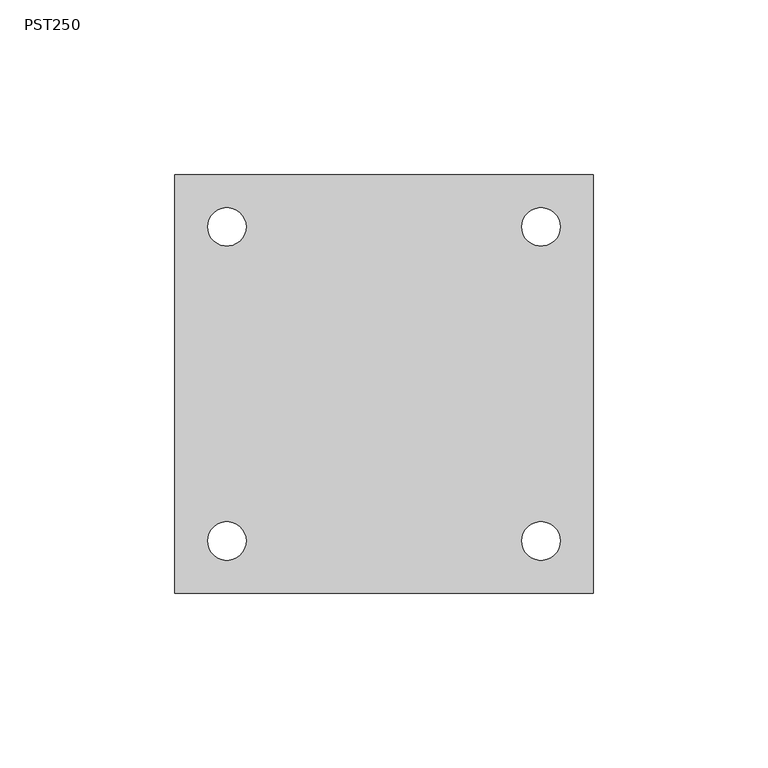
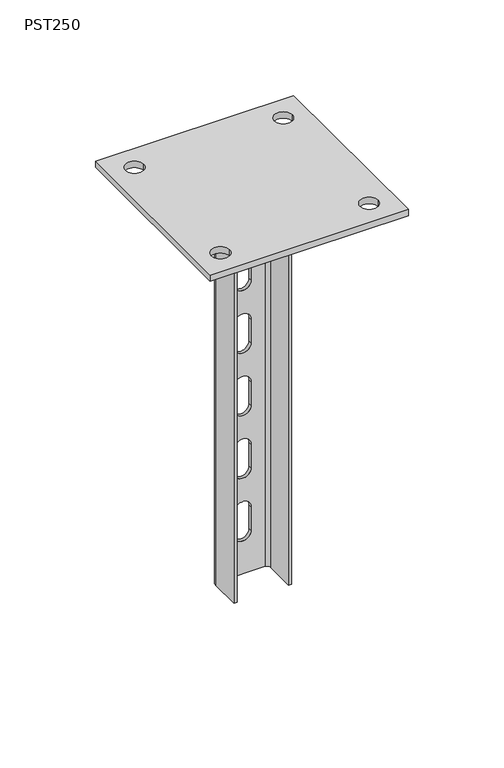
"""IFC4 building model written with IfcOpenShell, lengths in millimetres: proxy geometry, КМ Профиль_Стойка потолочная облегчённая PST : PST250."""

from ifc_helpers import new_model, si_unit, point, frame, frame_2d, origin, place, context, project, spatial, polyline, circle_curve, trimmed, segment, composite_curve, outline, extrude, source, transform, mapped, element, save
from ifc_brep_helpers import plane_surface, cylinder_surface, revolved_surface, advanced_brep


def pst250_26485013(model_context):
    return source(origin(), model_context, "Body", "SolidModel", [
        advanced_brep(
        [(17.5, -11.5, -4.0), (17.5, 7.5, -4.0), (13.5, 11.5, -4.0), (-13.5, 11.5, -4.0), (-17.5, 7.5, -4.0), (-17.5, -11.5, -4.0), (-15.5, -11.5, -4.0), (-15.5, 7.5, -4.0), (-13.5, 9.5, -4.0), (13.5, 9.5, -4.0), (15.5, 7.5, -4.0), (15.5, -11.5, -4.0), (17.5, 7.5, -254.0), (17.5, -11.5, -254.0), (15.5, -11.5, -254.0), (15.5, 7.5, -254.0), (13.5, 9.5, -254.0), (-13.5, 9.5, -254.0), (-15.5, 7.5, -254.0), (-15.5, -11.5, -254.0), (-17.5, -11.5, -254.0), (-17.5, 7.5, -254.0), (-13.5, 11.5, -254.0), (13.5, 11.5, -254.0), (-5.0, 11.5, -53.0), (-5.0, 11.5, -68.0), (5.0, 11.5, -68.0), (5.0, 11.5, -53.0), (-5.0, 11.5, -93.0), (-5.0, 11.5, -108.0), (5.0, 11.5, -108.0), (5.0, 11.5, -93.0), (-5.0, 11.5, -133.0), (-5.0, 11.5, -148.0), (5.0, 11.5, -148.0), (5.0, 11.5, -133.0), (-5.0, 11.5, -173.0), (-5.0, 11.5, -188.0), (5.0, 11.5, -188.0), (5.0, 11.5, -173.0), (-5.0, 11.5, -213.0), (-5.0, 11.5, -228.0), (5.0, 11.5, -228.0), (5.0, 11.5, -213.0), (-5.0, 11.5, -13.0), (-5.0, 11.5, -28.0), (5.0, 11.5, -28.0), (5.0, 11.5, -13.0), (-5.0, 9.5, -68.0), (-5.0, 9.5, -53.0), (5.0, 9.5, -53.0), (5.0, 9.5, -68.0), (-5.0, 9.5, -108.0), (-5.0, 9.5, -93.0), (5.0, 9.5, -93.0), (5.0, 9.5, -108.0), (-5.0, 9.5, -148.0), (-5.0, 9.5, -133.0), (5.0, 9.5, -133.0), (5.0, 9.5, -148.0), (-5.0, 9.5, -188.0), (-5.0, 9.5, -173.0), (5.0, 9.5, -173.0), (5.0, 9.5, -188.0), (-5.0, 9.5, -228.0), (-5.0, 9.5, -213.0), (5.0, 9.5, -213.0), (5.0, 9.5, -228.0), (-5.0, 9.5, -28.0), (-5.0, 9.5, -13.0), (5.0, 9.5, -13.0), (5.0, 9.5, -28.0)],
        [
            (0, 1),
            (1, 2, circle_curve(frame((13.5, 7.5, -4.0), z_axis=(0.0, 0.0, 1.0), x_axis=(1.0, 0.0, 0.0)), 4.0)),
            (2, 3),
            (3, 4, circle_curve(frame((-13.5, 7.5, -4.0), z_axis=(0.0, 0.0, 1.0), x_axis=(1.0, 0.0, 0.0)), 4.0)),
            (4, 5),
            (5, 6),
            (6, 7),
            (7, 8, circle_curve(frame((-13.5, 7.5, -4.0), z_axis=(0.0, 0.0, -1.0), x_axis=(1.0, 0.0, 0.0)), 2.0)),
            (8, 9),
            (9, 10, circle_curve(frame((13.5, 7.5, -4.0), z_axis=(0.0, 0.0, -1.0), x_axis=(1.0, 0.0, 0.0)), 2.0)),
            (10, 11),
            (11, 0),
            (12, 13),
            (13, 14),
            (14, 15),
            (15, 16, circle_curve(frame((13.5, 7.5, -254.0), z_axis=(0.0, 0.0, 1.0), x_axis=(1.0, 0.0, 0.0)), 2.0)),
            (16, 17),
            (17, 18, circle_curve(frame((-13.5, 7.5, -254.0), z_axis=(0.0, 0.0, 1.0), x_axis=(1.0, 0.0, 0.0)), 2.0)),
            (18, 19),
            (19, 20),
            (20, 21),
            (21, 22, circle_curve(frame((-13.5, 7.5, -254.0), z_axis=(0.0, 0.0, -1.0), x_axis=(1.0, 0.0, 0.0)), 4.0)),
            (22, 23),
            (23, 12, circle_curve(frame((13.5, 7.5, -254.0), z_axis=(0.0, 0.0, -1.0), x_axis=(1.0, 0.0, 0.0)), 4.0)),
            (0, 13),
            (12, 1),
            (23, 2),
            (22, 3),
            (24, 25),
            (25, 26, circle_curve(frame((0.0, 11.5, -68.0), z_axis=(0.0, -1.0, 0.0), x_axis=(0.0, 0.0, -1.0)), 5.0)),
            (26, 27),
            (27, 24, circle_curve(frame((0.0, 11.5, -53.0), z_axis=(0.0, -1.0, 0.0), x_axis=(0.0, 0.0, -1.0)), 5.0)),
            (28, 29),
            (29, 30, circle_curve(frame((0.0, 11.5, -108.0), z_axis=(0.0, -1.0, 0.0), x_axis=(0.0, 0.0, -1.0)), 5.0)),
            (30, 31),
            (31, 28, circle_curve(frame((0.0, 11.5, -93.0), z_axis=(0.0, -1.0, 0.0), x_axis=(0.0, 0.0, -1.0)), 5.0)),
            (32, 33),
            (33, 34, circle_curve(frame((0.0, 11.5, -148.0), z_axis=(0.0, -1.0, 0.0), x_axis=(0.0, 0.0, -1.0)), 5.0)),
            (34, 35),
            (35, 32, circle_curve(frame((0.0, 11.5, -133.0), z_axis=(0.0, -1.0, 0.0), x_axis=(0.0, 0.0, -1.0)), 5.0)),
            (36, 37),
            (37, 38, circle_curve(frame((0.0, 11.5, -188.0), z_axis=(0.0, -1.0, 0.0), x_axis=(0.0, 0.0, -1.0)), 5.0)),
            (38, 39),
            (39, 36, circle_curve(frame((0.0, 11.5, -173.0), z_axis=(0.0, -1.0, 0.0), x_axis=(0.0, 0.0, -1.0)), 5.0)),
            (40, 41),
            (41, 42, circle_curve(frame((0.0, 11.5, -228.0), z_axis=(0.0, -1.0, 0.0), x_axis=(0.0, 0.0, -1.0)), 5.0)),
            (42, 43),
            (43, 40, circle_curve(frame((0.0, 11.5, -213.0), z_axis=(0.0, -1.0, 0.0), x_axis=(0.0, 0.0, -1.0)), 5.0)),
            (44, 45),
            (45, 46, circle_curve(frame((0.0, 11.5, -28.0), z_axis=(0.0, -1.0, 0.0), x_axis=(0.0, 0.0, -1.0)), 5.0)),
            (46, 47),
            (47, 44, circle_curve(frame((0.0, 11.5, -13.0), z_axis=(0.0, -1.0, 0.0), x_axis=(0.0, 0.0, -1.0)), 5.0)),
            (21, 4),
            (20, 5),
            (19, 6),
            (18, 7),
            (17, 8),
            (16, 9),
            (48, 49),
            (49, 50, circle_curve(frame((0.0, 9.5, -53.0), z_axis=(0.0, 1.0, 0.0), x_axis=(0.0, 0.0, -1.0)), 5.0)),
            (50, 51),
            (51, 48, circle_curve(frame((0.0, 9.5, -68.0), z_axis=(0.0, 1.0, 0.0), x_axis=(0.0, 0.0, -1.0)), 5.0)),
            (52, 53),
            (53, 54, circle_curve(frame((0.0, 9.5, -93.0), z_axis=(0.0, 1.0, 0.0), x_axis=(0.0, 0.0, -1.0)), 5.0)),
            (54, 55),
            (55, 52, circle_curve(frame((0.0, 9.5, -108.0), z_axis=(0.0, 1.0, 0.0), x_axis=(0.0, 0.0, -1.0)), 5.0)),
            (56, 57),
            (57, 58, circle_curve(frame((0.0, 9.5, -133.0), z_axis=(0.0, 1.0, 0.0), x_axis=(0.0, 0.0, -1.0)), 5.0)),
            (58, 59),
            (59, 56, circle_curve(frame((0.0, 9.5, -148.0), z_axis=(0.0, 1.0, 0.0), x_axis=(0.0, 0.0, -1.0)), 5.0)),
            (60, 61),
            (61, 62, circle_curve(frame((0.0, 9.5, -173.0), z_axis=(0.0, 1.0, 0.0), x_axis=(0.0, 0.0, -1.0)), 5.0)),
            (62, 63),
            (63, 60, circle_curve(frame((0.0, 9.5, -188.0), z_axis=(0.0, 1.0, 0.0), x_axis=(0.0, 0.0, -1.0)), 5.0)),
            (64, 65),
            (65, 66, circle_curve(frame((0.0, 9.5, -213.0), z_axis=(0.0, 1.0, 0.0), x_axis=(0.0, 0.0, -1.0)), 5.0)),
            (66, 67),
            (67, 64, circle_curve(frame((0.0, 9.5, -228.0), z_axis=(0.0, 1.0, 0.0), x_axis=(0.0, 0.0, -1.0)), 5.0)),
            (68, 69),
            (69, 70, circle_curve(frame((0.0, 9.5, -13.0), z_axis=(0.0, 1.0, 0.0), x_axis=(0.0, 0.0, -1.0)), 5.0)),
            (70, 71),
            (71, 68, circle_curve(frame((0.0, 9.5, -28.0), z_axis=(0.0, 1.0, 0.0), x_axis=(0.0, 0.0, -1.0)), 5.0)),
            (15, 10),
            (14, 11),
            (24, 49),
            (48, 25),
            (27, 50),
            (26, 51),
            (28, 53),
            (52, 29),
            (31, 54),
            (30, 55),
            (32, 57),
            (56, 33),
            (35, 58),
            (34, 59),
            (36, 61),
            (60, 37),
            (39, 62),
            (38, 63),
            (40, 65),
            (64, 41),
            (43, 66),
            (42, 67),
            (44, 69),
            (68, 45),
            (47, 70),
            (46, 71),
        ],
        [
            plane_surface(frame((17.5, 70.8587358, -4.0), z_axis=(0.0, 0.0, 1.0), x_axis=(0.0, 1.0, 0.0))),
            plane_surface(frame((17.5, 70.8587358, -254.0), z_axis=(0.0, 0.0, -1.0), x_axis=(0.0, -1.0, 0.0))),
            plane_surface(frame((17.5, -11.5, -4.0), z_axis=(1.0, 0.0, 0.0), x_axis=(0.0, 0.0, -1.0))),
            cylinder_surface(frame((13.5, 7.5, -254.0), z_axis=(0.0, 0.0, 1.0), x_axis=(1.0, 0.0, 0.0)), 4.0),
            plane_surface(frame((13.5, 11.5, -4.0), z_axis=(0.0, 1.0, 0.0), x_axis=(0.0, 0.0, -1.0))),
            cylinder_surface(frame((-13.5, 7.5, -254.0), z_axis=(0.0, 0.0, 1.0), x_axis=(1.0, 0.0, 0.0)), 4.0),
            plane_surface(frame((-17.5, 7.5, -4.0), z_axis=(-1.0, 0.0, 0.0), x_axis=(0.0, 0.0, -1.0))),
            plane_surface(frame((-17.5, -11.5, -4.0), z_axis=(0.0, -1.0, 0.0), x_axis=(0.0, 0.0, -1.0))),
            plane_surface(frame((-15.5, -11.5, -4.0), z_axis=(1.0, 0.0, 0.0), x_axis=(0.0, 0.0, -1.0))),
            revolved_surface(polyline([(-11.5, 7.5, -254.0), (-11.5, 7.5, -4.0)]), (-13.5, 7.5, -254.0), (0.0, 0.0, -1.0)),
            plane_surface(frame((-13.5, 9.5, -4.0), z_axis=(0.0, -1.0, 0.0), x_axis=(0.0, 0.0, -1.0))),
            revolved_surface(polyline([(15.5, 7.5, -254.0), (15.5, 7.5, -4.0)]), (13.5, 7.5, -254.0), (0.0, 0.0, -1.0)),
            plane_surface(frame((15.5, 7.5, -4.0), z_axis=(-1.0, 0.0, 0.0), x_axis=(0.0, 0.0, -1.0))),
            plane_surface(frame((15.5, -11.5, -4.0), z_axis=(0.0, -1.0, 0.0), x_axis=(0.0, 0.0, -1.0))),
            plane_surface(frame((-5.0, 11.5, -68.0), z_axis=(1.0, 0.0, 0.0), x_axis=(0.0, -1.0, 0.0))),
            revolved_surface(polyline([(0.0, 11.5, -58.0), (0.0, 9.5, -58.0)]), (0.0, 9.5, -53.0), (0.0, 1.0, 0.0)),
            plane_surface(frame((5.0, 11.5, -53.0), z_axis=(-1.0, 0.0, 0.0), x_axis=(0.0, -1.0, 0.0))),
            revolved_surface(polyline([(0.0, 11.5, -73.0), (0.0, 9.5, -73.0)]), (0.0, 9.5, -68.0), (0.0, 1.0, 0.0)),
            plane_surface(frame((-5.0, 11.5, -108.0), z_axis=(1.0, 0.0, 0.0), x_axis=(0.0, -1.0, 0.0))),
            revolved_surface(polyline([(0.0, 11.5, -98.0), (0.0, 9.5, -98.0)]), (0.0, 9.5, -93.0), (0.0, 1.0, 0.0)),
            plane_surface(frame((5.0, 11.5, -93.0), z_axis=(-1.0, 0.0, 0.0), x_axis=(0.0, -1.0, 0.0))),
            revolved_surface(polyline([(0.0, 11.5, -113.0), (0.0, 9.5, -113.0)]), (0.0, 9.5, -108.0), (0.0, 1.0, 0.0)),
            plane_surface(frame((-5.0, 11.5, -148.0), z_axis=(1.0, 0.0, 0.0), x_axis=(0.0, -1.0, 0.0))),
            revolved_surface(polyline([(0.0, 11.5, -138.0), (0.0, 9.5, -138.0)]), (0.0, 9.5, -133.0), (0.0, 1.0, 0.0)),
            plane_surface(frame((5.0, 11.5, -133.0), z_axis=(-1.0, 0.0, 0.0), x_axis=(0.0, -1.0, 0.0))),
            revolved_surface(polyline([(0.0, 11.5, -153.0), (0.0, 9.5, -153.0)]), (0.0, 9.5, -148.0), (0.0, 1.0, 0.0)),
            plane_surface(frame((-5.0, 11.5, -188.0), z_axis=(1.0, 0.0, 0.0), x_axis=(0.0, -1.0, 0.0))),
            revolved_surface(polyline([(0.0, 11.5, -178.0), (0.0, 9.5, -178.0)]), (0.0, 9.5, -173.0), (0.0, 1.0, 0.0)),
            plane_surface(frame((5.0, 11.5, -173.0), z_axis=(-1.0, 0.0, 0.0), x_axis=(0.0, -1.0, 0.0))),
            revolved_surface(polyline([(0.0, 11.5, -193.0), (0.0, 9.5, -193.0)]), (0.0, 9.5, -188.0), (0.0, 1.0, 0.0)),
            plane_surface(frame((-5.0, 11.5, -228.0), z_axis=(1.0, 0.0, 0.0), x_axis=(0.0, -1.0, 0.0))),
            revolved_surface(polyline([(0.0, 11.5, -218.0), (0.0, 9.5, -218.0)]), (0.0, 9.5, -213.0), (0.0, 1.0, 0.0)),
            plane_surface(frame((5.0, 11.5, -213.0), z_axis=(-1.0, 0.0, 0.0), x_axis=(0.0, -1.0, 0.0))),
            revolved_surface(polyline([(0.0, 11.5, -233.0), (0.0, 9.5, -233.0)]), (0.0, 9.5, -228.0), (0.0, 1.0, 0.0)),
            plane_surface(frame((-5.0, 11.5, -28.0), z_axis=(1.0, 0.0, 0.0), x_axis=(0.0, -1.0, 0.0))),
            revolved_surface(polyline([(0.0, 11.5, -18.0), (0.0, 9.5, -18.0)]), (0.0, 9.5, -13.0), (0.0, 1.0, 0.0)),
            plane_surface(frame((5.0, 11.5, -13.0), z_axis=(-1.0, 0.0, 0.0), x_axis=(0.0, -1.0, 0.0))),
            revolved_surface(polyline([(0.0, 11.5, -33.0), (0.0, 9.5, -33.0)]), (0.0, 9.5, -28.0), (0.0, 1.0, 0.0)),
        ],
        [
            (0, [[1, 2, 3, 4, 5, 6, 7, 8, 9, 10, 11, 12]]),
            (1, [[13, 14, 15, 16, 17, 18, 19, 20, 21, 22, 23, 24]]),
            (2, [[-1, 25, -13, 26]]),
            (3, [[-2, -26, -24, 27]]),
            (4, [[-3, -27, -23, 28], [29, 30, 31, 32], [33, 34, 35, 36], [37, 38, 39, 40], [41, 42, 43, 44], [45, 46, 47, 48], [49, 50, 51, 52]]),
            (5, [[-4, -28, -22, 53]]),
            (6, [[-5, -53, -21, 54]]),
            (7, [[-6, -54, -20, 55]]),
            (8, [[-7, -55, -19, 56]]),
            (9, [[-8, -56, -18, 57]]),
            (10, [[-9, -57, -17, 58], [59, 60, 61, 62], [63, 64, 65, 66], [67, 68, 69, 70], [71, 72, 73, 74], [75, 76, 77, 78], [79, 80, 81, 82]]),
            (11, [[-10, -58, -16, 83]]),
            (12, [[-11, -83, -15, 84]]),
            (13, [[-12, -84, -14, -25]]),
            (14, [[85, -59, 86, -29]]),
            (15, [[-85, -32, 87, -60]]),
            (16, [[-87, -31, 88, -61]]),
            (17, [[-86, -62, -88, -30]]),
            (18, [[89, -63, 90, -33]]),
            (19, [[-89, -36, 91, -64]]),
            (20, [[-91, -35, 92, -65]]),
            (21, [[-90, -66, -92, -34]]),
            (22, [[93, -67, 94, -37]]),
            (23, [[-93, -40, 95, -68]]),
            (24, [[-95, -39, 96, -69]]),
            (25, [[-94, -70, -96, -38]]),
            (26, [[97, -71, 98, -41]]),
            (27, [[-97, -44, 99, -72]]),
            (28, [[-99, -43, 100, -73]]),
            (29, [[-98, -74, -100, -42]]),
            (30, [[101, -75, 102, -45]]),
            (31, [[-101, -48, 103, -76]]),
            (32, [[-103, -47, 104, -77]]),
            (33, [[-102, -78, -104, -46]]),
            (34, [[105, -79, 106, -49]]),
            (35, [[-105, -52, 107, -80]]),
            (36, [[-107, -51, 108, -81]]),
            (37, [[-106, -82, -108, -50]]),
        ],
    ),
        extrude(outline(polyline([(-60.0, 60.0), (60.0, 60.0), (60.0, -60.0), (-60.0, -60.0), (-60.0, 60.0)]), holes=[composite_curve([segment(trimmed(circle_curve(frame_2d((-45.0, 45.0)), 5.5), [point((-50.5, 45.0))], [point((-39.5, 45.0))], True, "CARTESIAN"), True, "CONTINUOUS"), segment(trimmed(circle_curve(frame_2d((-45.0, 45.0)), 5.5), [point((-39.5, 45.0))], [point((-50.5, 45.0))], True, "CARTESIAN"), True, "CONTINUOUS")], self_intersect=False), composite_curve([segment(trimmed(circle_curve(frame_2d((45.0, 45.0)), 5.5), [point((39.5, 45.0))], [point((50.5, 45.0))], True, "CARTESIAN"), True, "CONTINUOUS"), segment(trimmed(circle_curve(frame_2d((45.0, 45.0)), 5.5), [point((50.5, 45.0))], [point((39.5, 45.0))], True, "CARTESIAN"), True, "CONTINUOUS")], self_intersect=False), composite_curve([segment(trimmed(circle_curve(frame_2d((45.0, -45.0)), 5.5), [point((39.5, -45.0))], [point((50.5, -45.0))], True, "CARTESIAN"), True, "CONTINUOUS"), segment(trimmed(circle_curve(frame_2d((45.0, -45.0)), 5.5), [point((50.5, -45.0))], [point((39.5, -45.0))], True, "CARTESIAN"), True, "CONTINUOUS")], self_intersect=False), composite_curve([segment(trimmed(circle_curve(frame_2d((-45.0, -45.0)), 5.5), [point((-50.5, -45.0))], [point((-39.5, -45.0))], True, "CARTESIAN"), True, "CONTINUOUS"), segment(trimmed(circle_curve(frame_2d((-45.0, -45.0)), 5.5), [point((-39.5, -45.0))], [point((-50.5, -45.0))], True, "CARTESIAN"), True, "CONTINUOUS")], self_intersect=False)]), frame((0.0, 0.0, -4.0), z_axis=(0.0, 0.0, 1.0), x_axis=(1.0, 0.0, 0.0)), (0.0, 0.0, 1.0), 4.0),
    ])


if __name__ == "__main__":
    model = new_model("IFC4")
    model_context = context("Model", 3, world=origin())
    ifc_project = project(units=[si_unit("LENGTHUNIT", "METRE", prefix="MILLI")], contexts=[model_context])
    site = spatial("IfcSite", under=ifc_project)
    building = spatial("IfcBuilding", under=site)
    placement = place(None, origin())
    pst250_shape = pst250_26485013(model_context)
    element("IfcBuildingElementProxy", 1, Name="КМ Профиль_Стойка потолочная облегчённая PST : PST250", ObjectType="КМ Профиль_Стойка потолочная облегчённая PST : PST250", at=placement, inside=building, context=model_context, shape_type="MappedRepresentation", body=[
        mapped(pst250_shape, transform((0.0, 0.0, 0.0), x_axis=(1.0, 0.0, 0.0), y_axis=(0.0, 1.0, 0.0), z_axis=(0.0, 0.0, 1.0))),
    ])
    save(model, "model.ifc")
